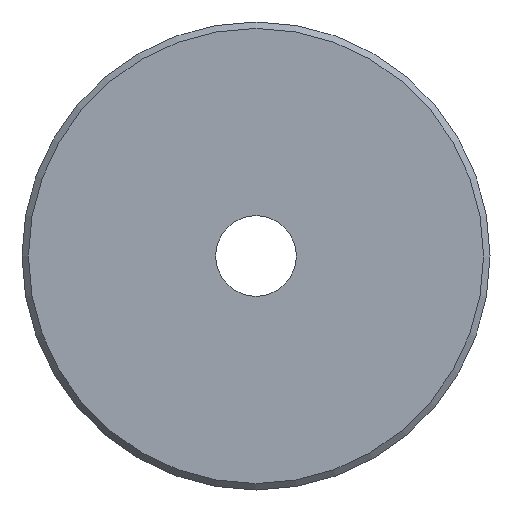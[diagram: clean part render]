
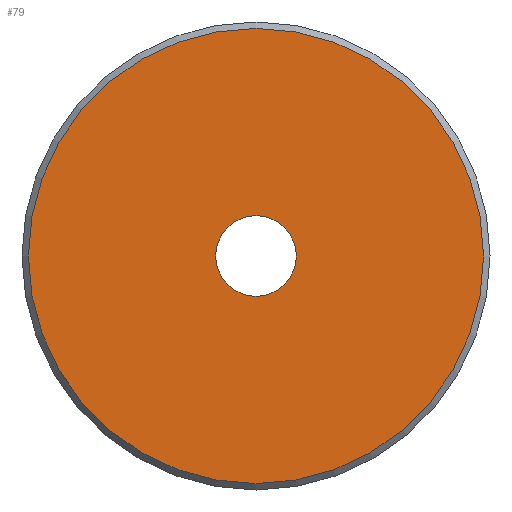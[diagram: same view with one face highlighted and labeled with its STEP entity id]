
A CAD part, front view. The second image highlights one B-rep face of the part: STEP entity #79.
In plain terms, the highlighted planar face has unit normal (0, -1, 0).
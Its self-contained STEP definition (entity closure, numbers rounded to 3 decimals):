
#16=PLANE('',#92);
#23=FACE_BOUND('',#40,.T.);
#29=FACE_OUTER_BOUND('',#39,.T.);
#39=EDGE_LOOP('',(#69));
#40=EDGE_LOOP('',(#70));
#47=CIRCLE('',#91,12.5);
#48=CIRCLE('',#93,70.5);
#53=VERTEX_POINT('',#134);
#54=VERTEX_POINT('',#137);
#59=EDGE_CURVE('',#53,#53,#47,.T.);
#60=EDGE_CURVE('',#54,#54,#48,.T.);
#69=ORIENTED_EDGE('',*,*,#60,.F.);
#70=ORIENTED_EDGE('',*,*,#59,.T.);
#79=ADVANCED_FACE('',(#29,#23),#16,.T.);
#91=AXIS2_PLACEMENT_3D('',#135,#113,#114);
#92=AXIS2_PLACEMENT_3D('',#136,#115,#116);
#93=AXIS2_PLACEMENT_3D('',#138,#117,#118);
#113=DIRECTION('center_axis',(0.,1.,0.));
#114=DIRECTION('ref_axis',(1.,0.,0.));
#115=DIRECTION('center_axis',(0.,-1.,0.));
#116=DIRECTION('ref_axis',(0.,0.,-1.));
#117=DIRECTION('center_axis',(0.,1.,0.));
#118=DIRECTION('ref_axis',(1.,0.,0.));
#134=CARTESIAN_POINT('',(44.284,-9.445,0.));
#135=CARTESIAN_POINT('Origin',(56.784,-9.445,0.));
#136=CARTESIAN_POINT('Origin',(-13.716,-9.445,0.));
#137=CARTESIAN_POINT('',(-13.716,-9.445,0.));
#138=CARTESIAN_POINT('Origin',(56.784,-9.445,0.));
